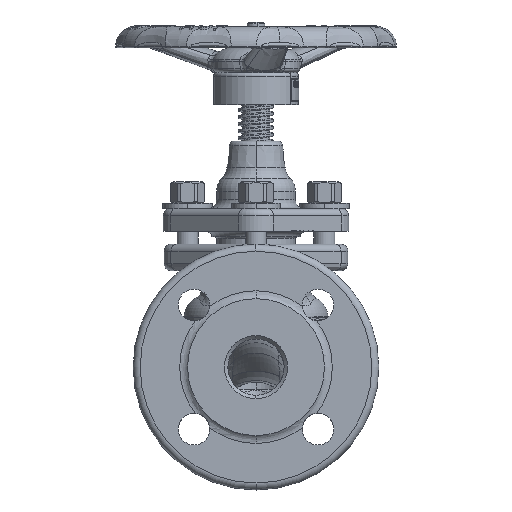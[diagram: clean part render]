
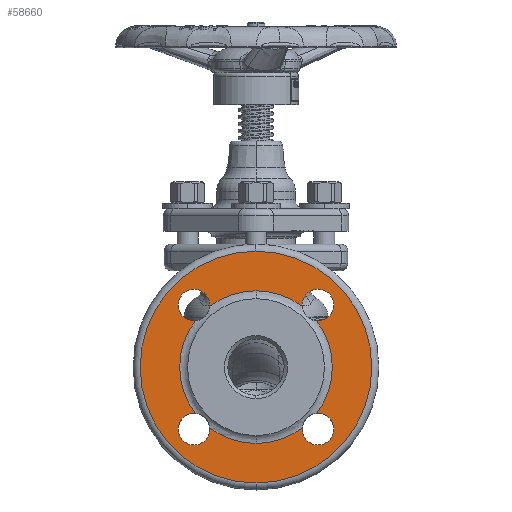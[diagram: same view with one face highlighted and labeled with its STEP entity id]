
A CAD part, left-side view. The second image highlights one B-rep face of the part: STEP entity #58660.
In plain terms, the highlighted planar face has unit normal (-1, 0, 0).
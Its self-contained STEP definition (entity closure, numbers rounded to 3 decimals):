
#7877=CARTESIAN_POINT('',(-88.,34.544,-26.392));
#7913=CARTESIAN_POINT('',(-88.,26.392,-34.544));
#7915=CARTESIAN_POINT('',(-88.,26.392,34.544));
#7951=CARTESIAN_POINT('',(-88.,34.544,26.392));
#7962=CARTESIAN_POINT('',(-88.,0.,0.));
#7963=DIRECTION('',(1.,0.,0.));
#7964=DIRECTION('',(0.,0.,-1.));
#7965=AXIS2_PLACEMENT_3D('',#7962,#7963,#7964);
#7967=CARTESIAN_POINT('',(-88.,0.,0.));
#7968=DIRECTION('',(1.,0.,0.));
#7969=DIRECTION('',(0.,0.,1.));
#7970=AXIS2_PLACEMENT_3D('',#7967,#7968,#7969);
#7972=CARTESIAN_POINT('',(-88.,-35.355,35.355));
#7973=DIRECTION('',(-1.,0.,0.));
#7974=DIRECTION('',(0.,-1.,0.));
#7975=AXIS2_PLACEMENT_3D('',#7972,#7973,#7974);
#7977=CARTESIAN_POINT('',(-88.,-35.355,35.355));
#7978=DIRECTION('',(-1.,0.,0.));
#7979=DIRECTION('',(0.,1.,0.));
#7980=AXIS2_PLACEMENT_3D('',#7977,#7978,#7979);
#7982=CARTESIAN_POINT('',(-88.,0.,0.));
#7983=DIRECTION('',(1.,0.,0.));
#7984=DIRECTION('',(0.,0.,1.));
#7985=AXIS2_PLACEMENT_3D('',#7982,#7983,#7984);
#7987=CARTESIAN_POINT('',(-88.,0.,0.));
#7988=DIRECTION('',(-1.,0.,0.));
#7989=DIRECTION('',(0.,0.,1.));
#7990=AXIS2_PLACEMENT_3D('',#7987,#7988,#7989);
#7992=CARTESIAN_POINT('',(-88.,35.355,35.355));
#7993=DIRECTION('',(-1.,0.,0.));
#7994=DIRECTION('',(0.,-0.996,-0.09));
#7995=AXIS2_PLACEMENT_3D('',#7992,#7993,#7994);
#7997=CARTESIAN_POINT('',(-88.,35.355,35.355));
#7998=DIRECTION('',(-1.,0.,0.));
#7999=DIRECTION('',(0.,-1.,0.));
#8000=AXIS2_PLACEMENT_3D('',#7997,#7998,#7999);
#8002=CARTESIAN_POINT('',(-88.,35.355,35.355));
#8003=DIRECTION('',(-1.,0.,0.));
#8004=DIRECTION('',(0.,1.,0.));
#8005=AXIS2_PLACEMENT_3D('',#8002,#8003,#8004);
#8007=CARTESIAN_POINT('',(-88.,0.,0.));
#8008=DIRECTION('',(-1.,0.,0.));
#8009=DIRECTION('',(0.,0.795,0.607));
#8010=AXIS2_PLACEMENT_3D('',#8007,#8008,#8009);
#8012=CARTESIAN_POINT('',(-88.,35.355,-35.355));
#8013=DIRECTION('',(-1.,0.,0.));
#8014=DIRECTION('',(0.,-0.09,0.996));
#8015=AXIS2_PLACEMENT_3D('',#8012,#8013,#8014);
#8017=CARTESIAN_POINT('',(-88.,35.355,-35.355));
#8018=DIRECTION('',(-1.,0.,0.));
#8019=DIRECTION('',(0.,1.,0.));
#8020=AXIS2_PLACEMENT_3D('',#8017,#8018,#8019);
#8022=CARTESIAN_POINT('',(-88.,35.355,-35.355));
#8023=DIRECTION('',(-1.,0.,0.));
#8024=DIRECTION('',(0.,-1.,0.));
#8025=AXIS2_PLACEMENT_3D('',#8022,#8023,#8024);
#8027=CARTESIAN_POINT('',(-88.,0.,0.));
#8028=DIRECTION('',(-1.,0.,0.));
#8029=DIRECTION('',(0.,0.607,-0.795));
#8030=AXIS2_PLACEMENT_3D('',#8027,#8028,#8029);
#8032=CARTESIAN_POINT('',(-88.,0.,0.));
#8033=DIRECTION('',(1.,0.,0.));
#8034=DIRECTION('',(0.,-0.607,-0.795));
#8035=AXIS2_PLACEMENT_3D('',#8032,#8033,#8034);
#8037=CARTESIAN_POINT('',(-88.,-35.355,-35.355));
#8038=DIRECTION('',(-1.,0.,0.));
#8039=DIRECTION('',(0.,0.996,0.09));
#8040=AXIS2_PLACEMENT_3D('',#8037,#8038,#8039);
#8042=CARTESIAN_POINT('',(-88.,-35.355,-35.355));
#8043=DIRECTION('',(-1.,0.,0.));
#8044=DIRECTION('',(0.,1.,0.));
#8045=AXIS2_PLACEMENT_3D('',#8042,#8043,#8044);
#8047=CARTESIAN_POINT('',(-88.,-35.355,-35.355));
#8048=DIRECTION('',(-1.,0.,0.));
#8049=DIRECTION('',(0.,-1.,0.));
#8050=AXIS2_PLACEMENT_3D('',#8047,#8048,#8049);
#8052=CARTESIAN_POINT('',(-88.,0.,0.));
#8053=DIRECTION('',(1.,0.,0.));
#8054=DIRECTION('',(0.,-0.795,0.607));
#8055=AXIS2_PLACEMENT_3D('',#8052,#8053,#8054);
#8057=CARTESIAN_POINT('',(-88.,-35.355,35.355));
#8058=DIRECTION('',(-1.,0.,0.));
#8059=DIRECTION('',(0.,0.09,-0.996));
#8060=AXIS2_PLACEMENT_3D('',#8057,#8058,#8059);
#33262=CARTESIAN_POINT('',(-88.,-34.544,26.392));
#33300=CARTESIAN_POINT('',(-88.,-26.392,-34.544));
#41794=CARTESIAN_POINT('',(-88.,0.,-66.));
#41795=CARTESIAN_POINT('',(-88.,0.,66.));
#41796=VERTEX_POINT('',#41794);
#41797=VERTEX_POINT('',#41795);
#41947=CARTESIAN_POINT('',(-88.,0.,43.472));
#41948=VERTEX_POINT('',#41947);
#41949=CARTESIAN_POINT('',(-88.,0.,-43.472));
#41950=VERTEX_POINT('',#41949);
#42015=VERTEX_POINT('',#7915);
#42016=VERTEX_POINT('',#7951);
#42017=CARTESIAN_POINT('',(-88.,26.355,35.355));
#42018=CARTESIAN_POINT('',(-88.,44.355,35.355));
#42019=VERTEX_POINT('',#42017);
#42020=VERTEX_POINT('',#42018);
#42025=VERTEX_POINT('',#7877);
#42026=VERTEX_POINT('',#7913);
#42027=CARTESIAN_POINT('',(-88.,26.355,-35.355));
#42028=VERTEX_POINT('',#42027);
#42029=CARTESIAN_POINT('',(-88.,44.355,-35.355));
#42030=VERTEX_POINT('',#42029);
#42035=CARTESIAN_POINT('',(-88.,-44.355,-35.355));
#42036=CARTESIAN_POINT('',(-88.,-34.544,-26.392));
#42037=VERTEX_POINT('',#42035);
#42038=VERTEX_POINT('',#42036);
#42039=CARTESIAN_POINT('',(-88.,-26.355,-35.355));
#42040=VERTEX_POINT('',#42039);
#42045=VERTEX_POINT('',#33300);
#42046=CARTESIAN_POINT('',(-88.,-44.355,35.355));
#42047=CARTESIAN_POINT('',(-88.,-26.355,35.355));
#42048=VERTEX_POINT('',#42046);
#42049=VERTEX_POINT('',#42047);
#42050=CARTESIAN_POINT('',(-88.,-26.392,34.544));
#42051=VERTEX_POINT('',#42050);
#42056=VERTEX_POINT('',#33262);
#58616=CARTESIAN_POINT('',(-88.,0.,0.));
#58617=DIRECTION('',(-1.,0.,0.));
#58618=DIRECTION('',(0.,0.,1.));
#58619=AXIS2_PLACEMENT_3D('',#58616,#58617,#58618);
#58620=PLANE('',#58619);
#58622=ORIENTED_EDGE('',*,*,#58621,.T.);
#58624=ORIENTED_EDGE('',*,*,#58623,.T.);
#58625=EDGE_LOOP('',(#58622,#58624));
#58626=FACE_OUTER_BOUND('',#58625,.F.);
#58628=ORIENTED_EDGE('',*,*,#58627,.T.);
#58630=ORIENTED_EDGE('',*,*,#58629,.T.);
#58632=ORIENTED_EDGE('',*,*,#58631,.F.);
#58633=ORIENTED_EDGE('',*,*,#58585,.T.);
#58635=ORIENTED_EDGE('',*,*,#58634,.T.);
#58637=ORIENTED_EDGE('',*,*,#58636,.T.);
#58639=ORIENTED_EDGE('',*,*,#58638,.T.);
#58640=ORIENTED_EDGE('',*,*,#58581,.T.);
#58641=ORIENTED_EDGE('',*,*,#58611,.T.);
#58643=ORIENTED_EDGE('',*,*,#58642,.T.);
#58644=ORIENTED_EDGE('',*,*,#58603,.T.);
#58645=ORIENTED_EDGE('',*,*,#58592,.T.);
#58647=ORIENTED_EDGE('',*,*,#58646,.F.);
#58649=ORIENTED_EDGE('',*,*,#58648,.T.);
#58651=ORIENTED_EDGE('',*,*,#58650,.T.);
#58653=ORIENTED_EDGE('',*,*,#58652,.T.);
#58655=ORIENTED_EDGE('',*,*,#58654,.F.);
#58657=ORIENTED_EDGE('',*,*,#58656,.T.);
#58658=EDGE_LOOP('',(#58628,#58630,#58632,#58633,#58635,#58637,#58639,#58640,
#58641,#58643,#58644,#58645,#58647,#58649,#58651,#58653,#58655,#58657));
#58659=FACE_BOUND('',#58658,.F.);
#58660=ADVANCED_FACE('',(#58626,#58659),#58620,.T.);
#7966=CIRCLE('',#7965,66.);
#7971=CIRCLE('',#7970,66.);
#7976=CIRCLE('',#7975,9.);
#7981=CIRCLE('',#7980,9.);
#7986=CIRCLE('',#7985,43.472);
#7991=CIRCLE('',#7990,43.472);
#7996=CIRCLE('',#7995,9.);
#8001=CIRCLE('',#8000,9.);
#8006=CIRCLE('',#8005,9.);
#8011=CIRCLE('',#8010,43.472);
#8016=CIRCLE('',#8015,9.);
#8021=CIRCLE('',#8020,9.);
#8026=CIRCLE('',#8025,9.);
#8031=CIRCLE('',#8030,43.472);
#8036=CIRCLE('',#8035,43.472);
#8041=CIRCLE('',#8040,9.);
#8046=CIRCLE('',#8045,9.);
#8051=CIRCLE('',#8050,9.);
#8056=CIRCLE('',#8055,43.472);
#8061=CIRCLE('',#8060,9.);
#58581=EDGE_CURVE('',#42016,#42025,#8011,.T.);
#58585=EDGE_CURVE('',#41948,#42015,#7991,.T.);
#58592=EDGE_CURVE('',#42026,#41950,#8031,.T.);
#58603=EDGE_CURVE('',#42028,#42026,#8026,.T.);
#58611=EDGE_CURVE('',#42025,#42030,#8016,.T.);
#58621=EDGE_CURVE('',#41796,#41797,#7966,.T.);
#58623=EDGE_CURVE('',#41797,#41796,#7971,.T.);
#58627=EDGE_CURVE('',#42048,#42049,#7976,.T.);
#58629=EDGE_CURVE('',#42049,#42051,#7981,.T.);
#58631=EDGE_CURVE('',#41948,#42051,#7986,.T.);
#58634=EDGE_CURVE('',#42015,#42019,#7996,.T.);
#58636=EDGE_CURVE('',#42019,#42020,#8001,.T.);
#58638=EDGE_CURVE('',#42020,#42016,#8006,.T.);
#58642=EDGE_CURVE('',#42030,#42028,#8021,.T.);
#58646=EDGE_CURVE('',#42045,#41950,#8036,.T.);
#58648=EDGE_CURVE('',#42045,#42040,#8041,.T.);
#58650=EDGE_CURVE('',#42040,#42037,#8046,.T.);
#58652=EDGE_CURVE('',#42037,#42038,#8051,.T.);
#58654=EDGE_CURVE('',#42056,#42038,#8056,.T.);
#58656=EDGE_CURVE('',#42056,#42048,#8061,.T.);
